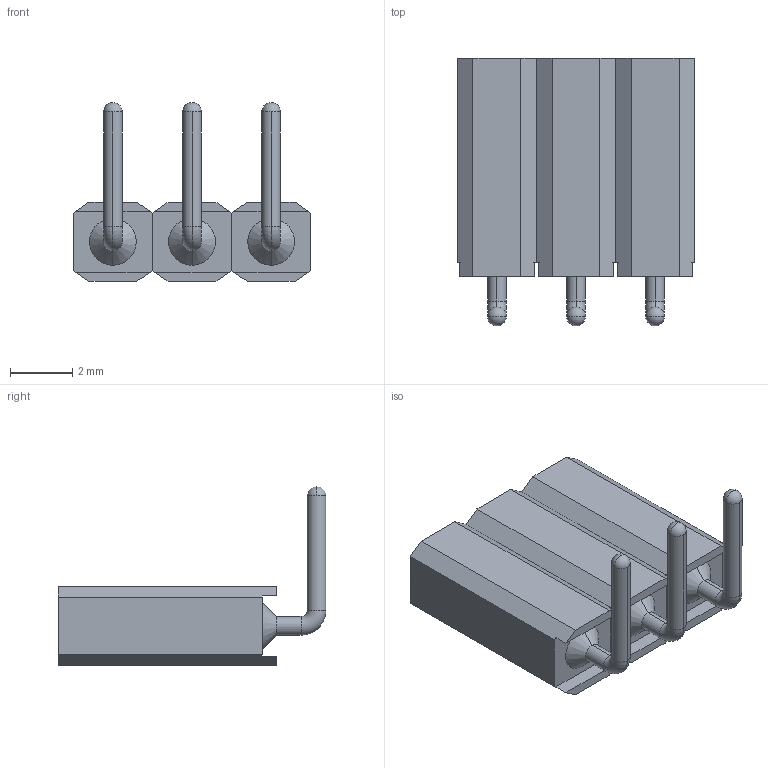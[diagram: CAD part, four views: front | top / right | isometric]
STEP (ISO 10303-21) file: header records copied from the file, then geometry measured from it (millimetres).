
FILE_DESCRIPTION (( 'STEP AP203' ), '1' );
FILE_NAME ('PM254-1-03-W-7.0-XX-C (2.54 单排 圆针 弯排母 塑高7.0-HCTL).STEP', '2026-03-21T07:33:27', ( '' ), ( '' ), 'SwSTEP 2.0', 'SolidWorks 2025', '' );
FILE_SCHEMA (( 'CONFIG_CONTROL_DESIGN' ));
Length unit declared in the file: millimetre
Products named in the file (1): PM254-1-03-W-7.0-XX-C (2.54 单排 圆针 弯排母 塑高7.0-HCTL)
Bounding box: 7.62 x 8.6 x 5.74 mm (x, y, z)
Volume: 125.8 mm3; surface area: 299.4 mm2
Topology: 3 solids, 3 shells, 99 faces, 234 edges, 147 vertices
Faces by surface type: plane 51, cylinder 24, cone 12, sphere 6, torus 6
Entity records: 2849 total; most frequent: DIRECTION 506, CARTESIAN_POINT 469, ORIENTED_EDGE 450, EDGE_CURVE 225, AXIS2_PLACEMENT_3D 181, VERTEX_POINT 144, LINE 144, VECTOR 144
